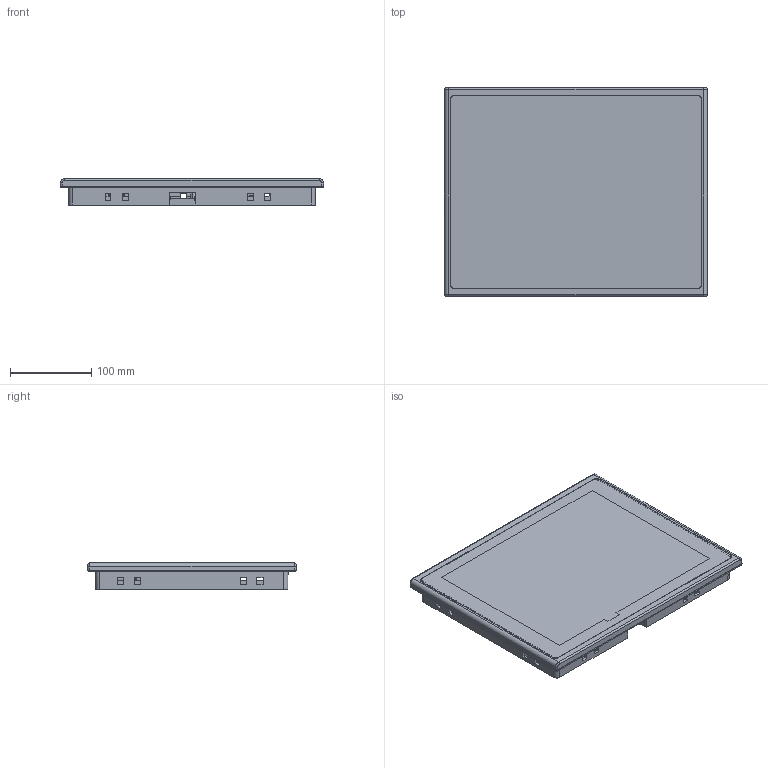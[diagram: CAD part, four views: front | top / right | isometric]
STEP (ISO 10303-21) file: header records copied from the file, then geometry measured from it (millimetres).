
FILE_DESCRIPTION((''),'2;1');
FILE_NAME('DMT80600T121-15WT','2022-04-12T',('Administrator'),(''),'PRO/ENGINEER BY PARAMETRIC TECHNOLOGY CORPORATION, 2011310','PRO/ENGINEER BY PARAMETRIC TECHNOLOGY CORPORATION, 2011310','');
FILE_SCHEMA(('CONFIG_CONTROL_DESIGN','SHAPE_APPEARANCE_LAYERS_GROUPS'));
Products named in the file (1): DMT80600T121-15WT
Bounding box: 323.35 x 256 x 32.25 mm (x, y, z)
Volume: 1108302 mm3; surface area: 606335.3 mm2
Topology: 3 solids, 3 shells, 1579 faces, 4812 edges, 3282 vertices
Faces by surface type: plane 1089, cone 296, cylinder 166, bspline 20, torus 8
Entity records: 67255 total; most frequent: CARTESIAN_POINT 11779, ORIENTED_EDGE 9624, DIRECTION 8694, EDGE_CURVE 4812, VERTEX_POINT 3282, VECTOR 3240, LINE 3240, AXIS2_PLACEMENT_3D 2727
